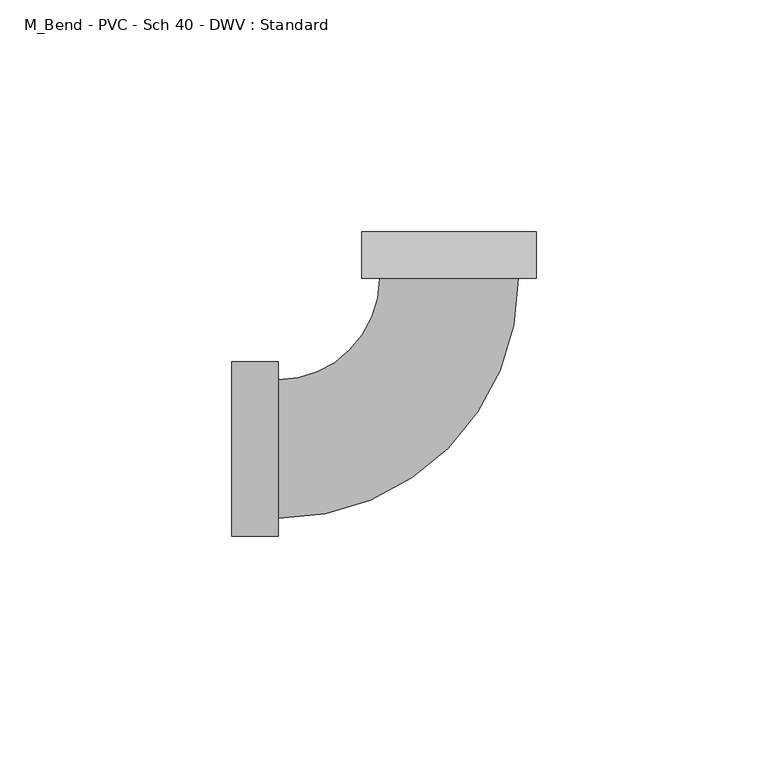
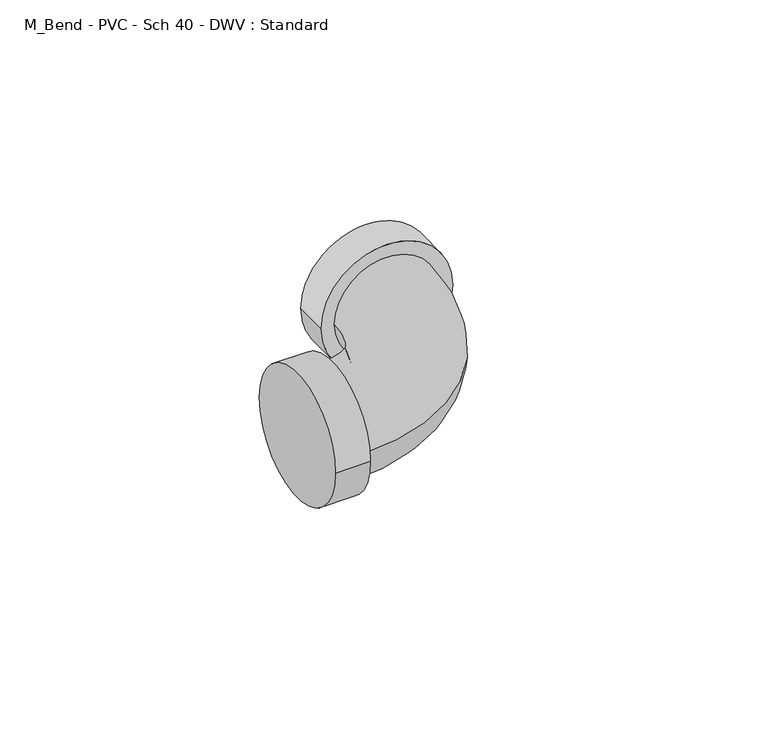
"""IFC4 building model written with IfcOpenShell, lengths in millimetres: pipe fitting geometry, M_Bend - PVC - Sch 40 - DWV : Standard."""

from ifc_helpers import new_model, si_unit, point, frame, origin, place, context, project, spatial, circle_curve, ellipse_curve, trimmed, source, transform, mapped, element, save
from ifc_brep_helpers import plane_surface, cylinder_surface, revolved_surface, advanced_brep


def m_bend_pvc_sch_40_dwv_standard_6a13f82e(model_context):
    return source(origin(), model_context, "Body", "AdvancedBrep", [
        advanced_brep(
        [(-46.8140625, -18.7871094, 0.0), (-46.8140625, 18.7871094, 0.0), (-36.8140625, -18.7871094, 0.0), (-36.8140625, 18.7871094, 0.0), (-36.8140625, -14.9640625, 0.0), (-36.8140625, 14.9640625, 0.0), (-14.9641374, 36.8140321, 0.0), (14.9639876, 36.814093, 0.0), (18.7870345, 36.8141008, 0.0), (-18.7871842, 36.8140243, 0.0), (18.7870142, 46.8141008, 0.0), (-18.7872046, 46.8140243, 0.0)],
        [
            (0, 1, circle_curve(frame((-46.8140625, 0.0, 0.0), z_axis=(-1.0, 0.0, 0.0), x_axis=(0.0, 1.0, 0.0)), 18.7871094)),
            (1, 0, circle_curve(frame((-46.8140625, 0.0, 0.0), z_axis=(-1.0, 0.0, 0.0), x_axis=(0.0, 1.0, 0.0)), 18.7871094)),
            (2, 3, circle_curve(frame((-36.8140625, 0.0, 0.0), z_axis=(1.0, 0.0, 0.0), x_axis=(0.0, 1.0, 0.0)), 18.7871094)),
            (3, 2, circle_curve(frame((-36.8140625, 0.0, 0.0), z_axis=(1.0, 0.0, 0.0), x_axis=(0.0, 1.0, 0.0)), 18.7871094)),
            (4, 5, circle_curve(frame((-36.8140625, 0.0, 0.0), z_axis=(-1.0, 0.0, 0.0), x_axis=(0.0, 1.0, 0.0)), 14.9640625)),
            (5, 4, circle_curve(frame((-36.8140625, 0.0, 0.0), z_axis=(-1.0, 0.0, 0.0), x_axis=(0.0, 1.0, 0.0)), 14.9640625)),
            (0, 2),
            (3, 1),
            (6, 5, circle_curve(frame((-36.8140625, 36.8139876, 0.0), z_axis=(0.0, 0.0, -1.0), x_axis=(0.0, -1.0, 0.0)), 21.8499251)),
            (4, 7, circle_curve(frame((-36.8140625, 36.8139876, 0.0), z_axis=(0.0, 0.0, 1.0), x_axis=(0.0, -1.0, 0.0)), 51.7780501)),
            (7, 6, circle_curve(frame((-7.49e-05, 36.8140625, 0.0), z_axis=(2.0348337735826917e-06, -0.9999999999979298, 0.0), x_axis=(-0.9999999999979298, -2.0348337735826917e-06, 0.0)), 14.9640625)),
            (6, 7, circle_curve(frame((-7.49e-05, 36.8140625, 0.0), z_axis=(2.0348337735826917e-06, -0.9999999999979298, 0.0), x_axis=(-0.9999999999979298, -2.0348337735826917e-06, 0.0)), 14.9640625)),
            (8, 9, circle_curve(frame((-7.49e-05, 36.8140625, 0.0), z_axis=(2.034833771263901e-06, -0.9999999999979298, 0.0), x_axis=(-0.9999999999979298, -2.034833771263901e-06, 0.0)), 18.7871094)),
            (9, 8, circle_curve(frame((-7.49e-05, 36.8140625, 0.0), z_axis=(2.034833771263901e-06, -0.9999999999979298, 0.0), x_axis=(-0.9999999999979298, -2.034833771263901e-06, 0.0)), 18.7871094)),
            (10, 11, circle_curve(frame((-9.52e-05, 46.8140625, 0.0), z_axis=(-2.034833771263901e-06, 0.9999999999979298, 0.0), x_axis=(-0.9999999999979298, -2.034833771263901e-06, 0.0)), 18.7871094)),
            (11, 10, circle_curve(frame((-9.52e-05, 46.8140625, 0.0), z_axis=(-2.034833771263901e-06, 0.9999999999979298, 0.0), x_axis=(-0.9999999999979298, -2.034833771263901e-06, 0.0)), 18.7871094)),
            (8, 10),
            (11, 9),
        ],
        [
            plane_surface(frame((-46.8140625, 0.0, 0.0), z_axis=(-1.0, 0.0, 0.0), x_axis=(0.0, 0.0, 1.0))),
            plane_surface(frame((-36.8140625, 0.0, 0.0), z_axis=(1.0, 0.0, 0.0), x_axis=(0.0, 0.0, 1.0))),
            cylinder_surface(frame((-46.8140625, 0.0, 0.0), z_axis=(-1.0, 0.0, 0.0), x_axis=(0.0, 1.0, 0.0)), 18.7871094),
            revolved_surface(trimmed(ellipse_curve(frame((-36.8140625, 0.0, 0.0), z_axis=(-1.0, 0.0, 0.0), x_axis=(0.0, 1.0, 0.0)), 14.9640625, 14.9640625), [point((-36.8140625, -14.9640625, 0.0))], [point((-36.8140625, 14.9640625, 0.0))], True, "CARTESIAN"), (-36.8140625, 36.8139876, 0.0), (0.0, 0.0, 1.0)),
            revolved_surface(trimmed(ellipse_curve(frame((-36.8140625, 0.0, 0.0), z_axis=(-1.0, 0.0, 0.0), x_axis=(0.0, 1.0, 0.0)), 14.9640625, 14.9640625), [point((-36.8140625, 14.9640625, 0.0))], [point((-36.8140625, -14.9640625, 0.0))], True, "CARTESIAN"), (-36.8140625, 36.8139876, 0.0), (0.0, 0.0, 1.0)),
            plane_surface(frame((-7.49e-05, 36.8140625, 0.0), z_axis=(2.0348337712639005e-06, -0.9999999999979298, 0.0), x_axis=(0.0, 0.0, 1.0))),
            plane_surface(frame((-9.52e-05, 46.8140625, 0.0), z_axis=(-2.0348337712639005e-06, 0.9999999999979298, 0.0), x_axis=(0.0, 0.0, 1.0))),
            cylinder_surface(frame((-7.49e-05, 36.8140625, 0.0), z_axis=(2.034833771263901e-06, -0.9999999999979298, 0.0), x_axis=(-0.9999999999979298, -2.034833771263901e-06, 0.0)), 18.7871094),
        ],
        [
            (0, [[1, 2]]),
            (1, [[3, 4], [5, 6]]),
            (2, [[-1, 7, -4, 8]]),
            (2, [[-2, -8, -3, -7]]),
            (3, [[9, -5, 10, 11]]),
            (4, [[-9, 12, -10, -6]]),
            (5, [[13, 14], [-11, -12]]),
            (6, [[15, 16]]),
            (7, [[-13, 17, -16, 18]]),
            (7, [[-14, -18, -15, -17]]),
        ],
    ),
    ])


if __name__ == "__main__":
    model = new_model("IFC4")
    model_context = context("Model", 3, world=origin())
    ifc_project = project(units=[si_unit("LENGTHUNIT", "METRE", prefix="MILLI")], contexts=[model_context])
    site = spatial("IfcSite", under=ifc_project)
    building = spatial("IfcBuilding", under=site)
    placement = place(None, origin())
    m_bend_pvc_sch_40_dwv_standard_shape = m_bend_pvc_sch_40_dwv_standard_6a13f82e(model_context)
    element("IfcPipeFitting", 1, ObjectType="M_Bend - PVC - Sch 40 - DWV : Standard", at=placement, inside=building, context=model_context, shape_type="MappedRepresentation", body=[
        mapped(m_bend_pvc_sch_40_dwv_standard_shape, transform((0.0, 0.0, 0.0), x_axis=(1.0, 0.0, 0.0), y_axis=(0.0, 1.0, 0.0), z_axis=(0.0, 0.0, 1.0))),
    ])
    save(model, "model.ifc")
